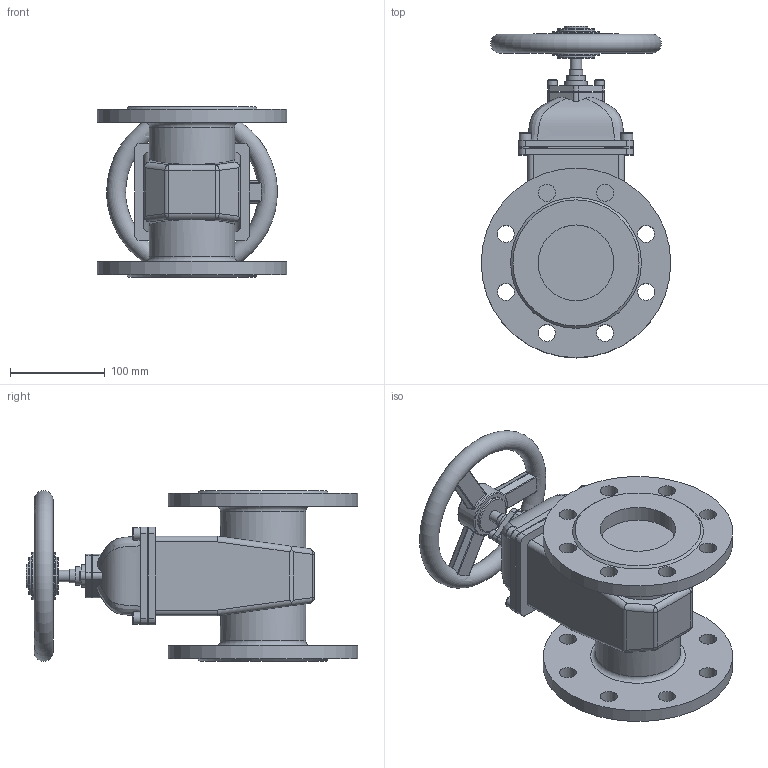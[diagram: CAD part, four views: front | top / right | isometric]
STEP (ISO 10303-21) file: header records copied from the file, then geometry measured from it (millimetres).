
FILE_DESCRIPTION(('STEP AP242'), '1');
FILE_NAME('GVWN1414N-2W-F-S blue Çàäâèæêà êëèíîâàÿ ñ íåâèäâèæíûì øòîêîì DN.ru Äó80 Ðó10-16', '', ('UNSPECIFIED'), ('UNSPECIFIED'), 'C3D Converter', 'C3D Toolkit', '');
FILE_SCHEMA(('AP242_MANAGED_MODEL_BASED_3D_ENGINEERING_MIM_LF { 1 0 10303 442 1 1 4 }'));
Length unit declared in the file: millimetre
Products named in the file (7): GVWN1414N-2W-F-S blue
Assembly tree (10 placements, depth 2):
  GVWN1414N-2W-F-S blue
    GVWN1414N-2W-F-S blue
    (unnamed)
    (unnamed)
    (unnamed)  x4
    (unnamed)  x2
    (unnamed)
Bounding box: 200 x 350 x 180 mm (x, y, z)
Volume: 3236017.4 mm3; surface area: 318186.1 mm2
Topology: 1 solids, 1 shells, 351 faces, 927 edges, 606 vertices
Faces by surface type: plane 154, cylinder 97, bspline 38, extrusion 27, torus 19, cone 8, sphere 8
Full cylindrical faces by diameter (mm): 6 x2, 8 x4, 10 x2, 12 x1, 13 x4, 14.4 x1, 18 x16, 19.2 x1, 24 x2, 25 x1, 40 x2, 50 x1, 80 x2, 90 x2, 200 x2
Entity records: 21748 total; most frequent: CARTESIAN_POINT 11768, ORIENTED_EDGE 1630, DIRECTION 1338, EDGE_CURVE 815, VERTEX_POINT 560, EDGE_LOOP 493, AXIS2_PLACEMENT_3D 476, FACE_BOUND 391
